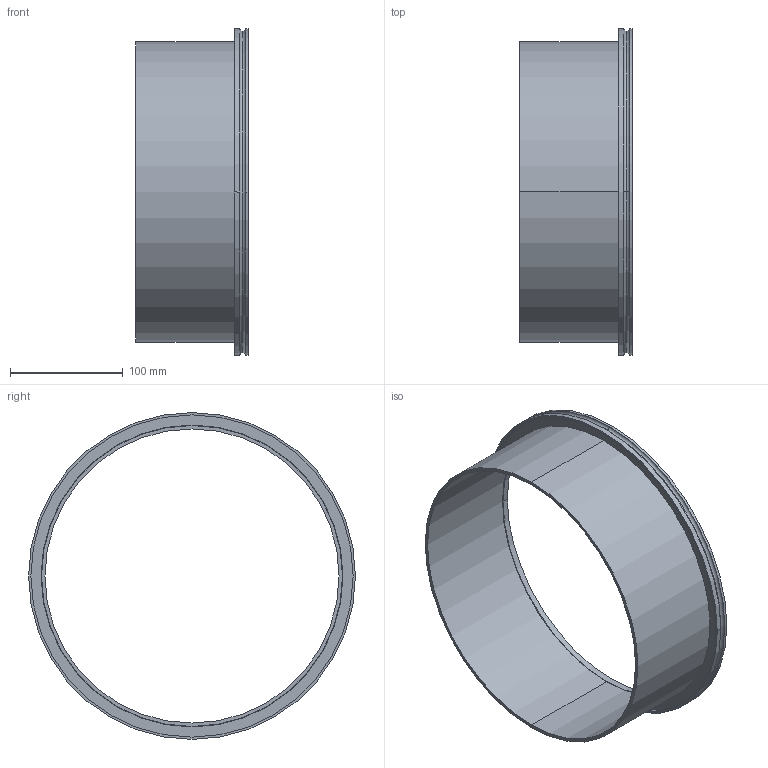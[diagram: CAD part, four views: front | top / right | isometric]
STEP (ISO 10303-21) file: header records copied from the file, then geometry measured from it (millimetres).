
FILE_DESCRIPTION((''),'2;1');
FILE_NAME('W:\212-055.stp','2004-01-07T14:49:48',('KAA'),(''),'Autodesk Inventor (R) 6.0','Autodesk Inventor (R) 6.0','');
FILE_SCHEMA(('CONFIG_CONTROL_DESIGN'));
Length unit declared in the file: millimetre
Products named in the file (1): 212-055
Bounding box: 100 x 290 x 290 mm (x, y, z)
Volume: 341647.2 mm3; surface area: 206487.4 mm2
Topology: 1 solids, 1 shells, 32 faces, 71 edges, 45 vertices
Faces by surface type: cylinder 14, plane 6, bspline 4, torus 4, cone 4
Entity records: 1171 total; most frequent: CARTESIAN_POINT 325, DIRECTION 182, ORIENTED_EDGE 142, AXIS2_PLACEMENT_3D 82, EDGE_CURVE 71, CIRCLE 53, VERTEX_POINT 45, EDGE_LOOP 38
